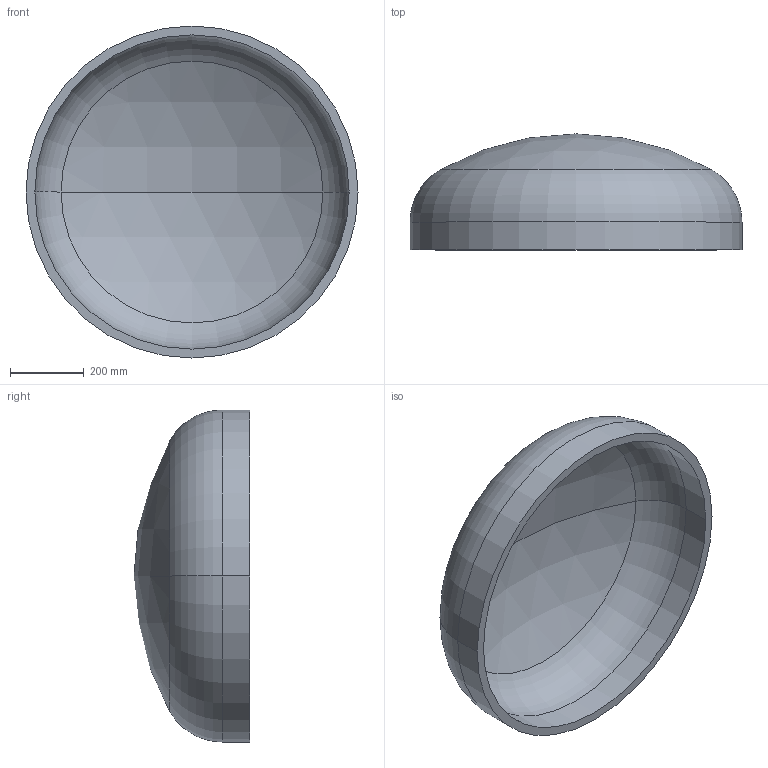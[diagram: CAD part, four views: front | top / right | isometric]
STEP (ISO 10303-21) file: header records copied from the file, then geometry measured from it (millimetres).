
FILE_DESCRIPTION (( 'STEP AP203' ), '1' );
FILE_NAME ('DIN 28013 Korbbogenform_-_Boden DIN 28013 - 900 x 75 - I - s=24.step', '2016-07-01T08:28:10', ( '' ), ( '' ), 'SwSTEP 2.0', 'SolidWorks 2013', '' );
FILE_SCHEMA (( 'CONFIG_CONTROL_DESIGN' ));
Length unit declared in the file: millimetre
Products named in the file (1): DIN 28013 Korbbogenform_-_Boden DIN 28013 - 900 x 75 - I - s=24
Bounding box: 900 x 314.42 x 900 mm (x, y, z)
Volume: 25415194 mm3; surface area: 2185187.4 mm2
Topology: 1 solids, 1 shells, 13 faces, 24 edges, 14 vertices
Faces by surface type: torus 4, cylinder 4, sphere 4, plane 1
Entity records: 407 total; most frequent: DIRECTION 72, CARTESIAN_POINT 52, ORIENTED_EDGE 48, AXIS2_PLACEMENT_3D 34, EDGE_CURVE 24, CIRCLE 20, EDGE_LOOP 14, VERTEX_POINT 14
